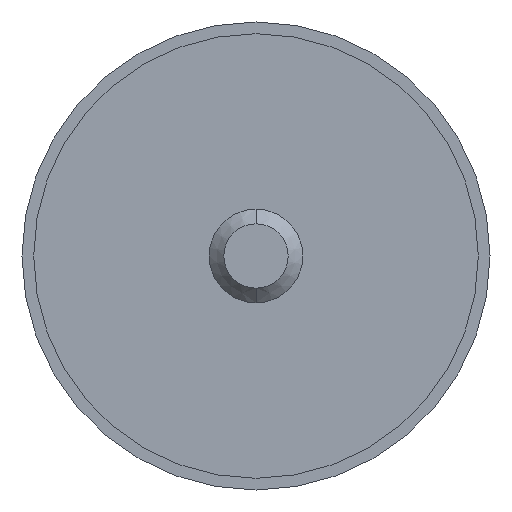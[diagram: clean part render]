
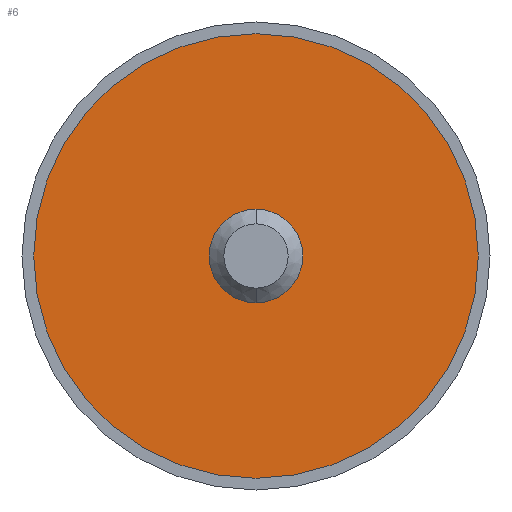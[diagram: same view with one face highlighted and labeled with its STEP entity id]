
A CAD part, front view. The second image highlights one B-rep face of the part: STEP entity #6.
In plain terms, the highlighted planar face has unit normal (0, -1, 0).
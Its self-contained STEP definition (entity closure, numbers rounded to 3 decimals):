
#6 = ADVANCED_FACE ( 'NONE', ( #2763, #271 ), #1641, .F. ) ;
#45 = VERTEX_POINT ( 'NONE', #182 ) ;
#72 = DIRECTION ( 'NONE',  ( 0., 0., -1. ) ) ;
#89 = EDGE_CURVE ( 'NONE', #1180, #2631, #3529, .T. ) ;
#171 = CARTESIAN_POINT ( 'NONE',  ( 0., -1., -19. ) ) ;
#182 = CARTESIAN_POINT ( 'NONE',  ( 0., -1., 4. ) ) ;
#271 = FACE_OUTER_BOUND ( 'NONE', #321, .T. ) ;
#288 = ORIENTED_EDGE ( 'NONE', *, *, #89, .F. ) ;
#321 = EDGE_LOOP ( 'NONE', ( #2393, #288 ) ) ;
#456 = DIRECTION ( 'NONE',  ( 0., 1., 0. ) ) ;
#751 = DIRECTION ( 'NONE',  ( 0., -1., 0. ) ) ;
#820 = CARTESIAN_POINT ( 'NONE',  ( 0., -1., 19. ) ) ;
#1178 = ORIENTED_EDGE ( 'NONE', *, *, #2444, .F. ) ;
#1180 = VERTEX_POINT ( 'NONE', #171 ) ;
#1526 = AXIS2_PLACEMENT_3D ( 'NONE', #3765, #456, #1935 ) ;
#1549 = VERTEX_POINT ( 'NONE', #3702 ) ;
#1551 = AXIS2_PLACEMENT_3D ( 'NONE', #3189, #3789, #1963 ) ;
#1624 = CIRCLE ( 'NONE', #3896, 19. ) ;
#1639 = CARTESIAN_POINT ( 'NONE',  ( 0., -1., 0. ) ) ;
#1641 = PLANE ( 'NONE',  #1526 ) ;
#1820 = ORIENTED_EDGE ( 'NONE', *, *, #2894, .F. ) ;
#1892 = EDGE_LOOP ( 'NONE', ( #1178, #1820 ) ) ;
#1935 = DIRECTION ( 'NONE',  ( 0., 0., 1. ) ) ;
#1963 = DIRECTION ( 'NONE',  ( 0., 0., 1. ) ) ;
#2238 = AXIS2_PLACEMENT_3D ( 'NONE', #2485, #3695, #72 ) ;
#2347 = EDGE_CURVE ( 'NONE', #2631, #1180, #1624, .T. ) ;
#2393 = ORIENTED_EDGE ( 'NONE', *, *, #2347, .F. ) ;
#2444 = EDGE_CURVE ( 'NONE', #45, #1549, #3523, .T. ) ;
#2485 = CARTESIAN_POINT ( 'NONE',  ( 0., -1., 0. ) ) ;
#2631 = VERTEX_POINT ( 'NONE', #820 ) ;
#2763 = FACE_BOUND ( 'NONE', #1892, .T. ) ;
#2894 = EDGE_CURVE ( 'NONE', #1549, #45, #2903, .T. ) ;
#2903 = CIRCLE ( 'NONE', #2238, 4. ) ;
#3189 = CARTESIAN_POINT ( 'NONE',  ( 0., -1., 0. ) ) ;
#3446 = DIRECTION ( 'NONE',  ( 0., 0., 1. ) ) ;
#3474 = DIRECTION ( 'NONE',  ( 0., 0., -1. ) ) ;
#3488 = CARTESIAN_POINT ( 'NONE',  ( 0., -1., 0. ) ) ;
#3523 = CIRCLE ( 'NONE', #3538, 4. ) ;
#3529 = CIRCLE ( 'NONE', #1551, 19. ) ;
#3538 = AXIS2_PLACEMENT_3D ( 'NONE', #3488, #751, #3474 ) ;
#3695 = DIRECTION ( 'NONE',  ( 0., -1., 0. ) ) ;
#3702 = CARTESIAN_POINT ( 'NONE',  ( 0., -1., -4. ) ) ;
#3761 = DIRECTION ( 'NONE',  ( 0., 1., 0. ) ) ;
#3765 = CARTESIAN_POINT ( 'NONE',  ( 0., -1., 0. ) ) ;
#3789 = DIRECTION ( 'NONE',  ( 0., 1., 0. ) ) ;
#3896 = AXIS2_PLACEMENT_3D ( 'NONE', #1639, #3761, #3446 ) ;
